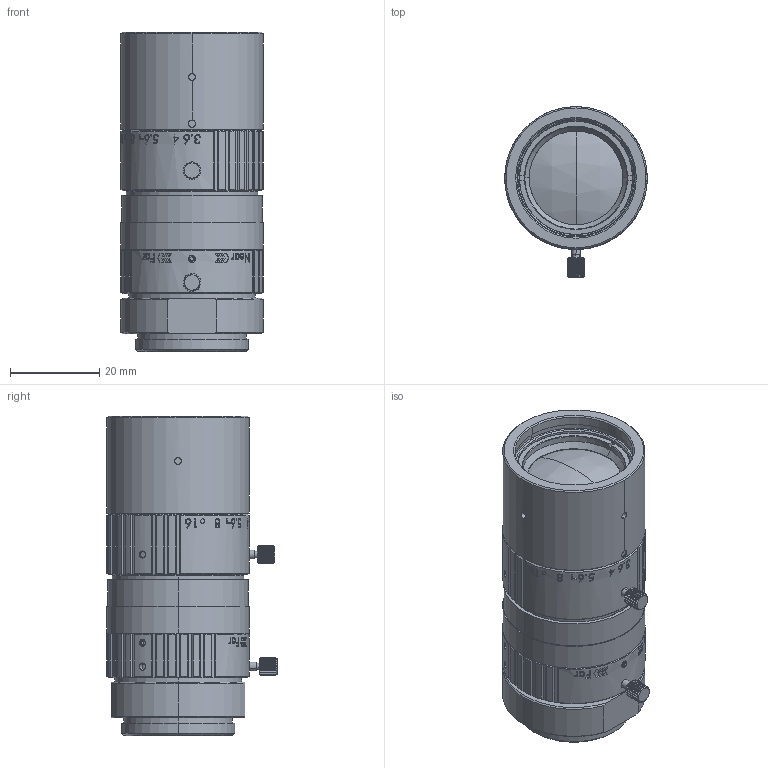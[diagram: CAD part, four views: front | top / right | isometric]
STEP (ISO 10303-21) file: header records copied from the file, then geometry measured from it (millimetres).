
FILE_DESCRIPTION (( 'STEP AP214' ), '1' );
FILE_NAME ('ML-MC75AR-LWD.STEP', '2026-02-12T07:13:56', ( '' ), ( '' ), 'SwSTEP 2.0', 'SolidWorks 2025', '' );
FILE_SCHEMA (( 'AUTOMOTIVE_DESIGN' ));
Length unit declared in the file: millimetre
Products named in the file (1): ML-MC75AR-LWD
Bounding box: 32 x 38.25 x 71.65 mm (x, y, z)
Volume: 50492.5 mm3; surface area: 11093.3 mm2
Topology: 1 solids, 3 shells, 1065 faces, 2839 edges, 1850 vertices
Faces by surface type: plane 388, cylinder 352, cone 168, bspline 153, sphere 4
Entity records: 48308 total; most frequent: CARTESIAN_POINT 24053, ORIENTED_EDGE 5678, DIRECTION 4064, EDGE_CURVE 2839, VERTEX_POINT 1850, AXIS2_PLACEMENT_3D 1510, B_SPLINE_CURVE_WITH_KNOTS 1198, EDGE_LOOP 1135
